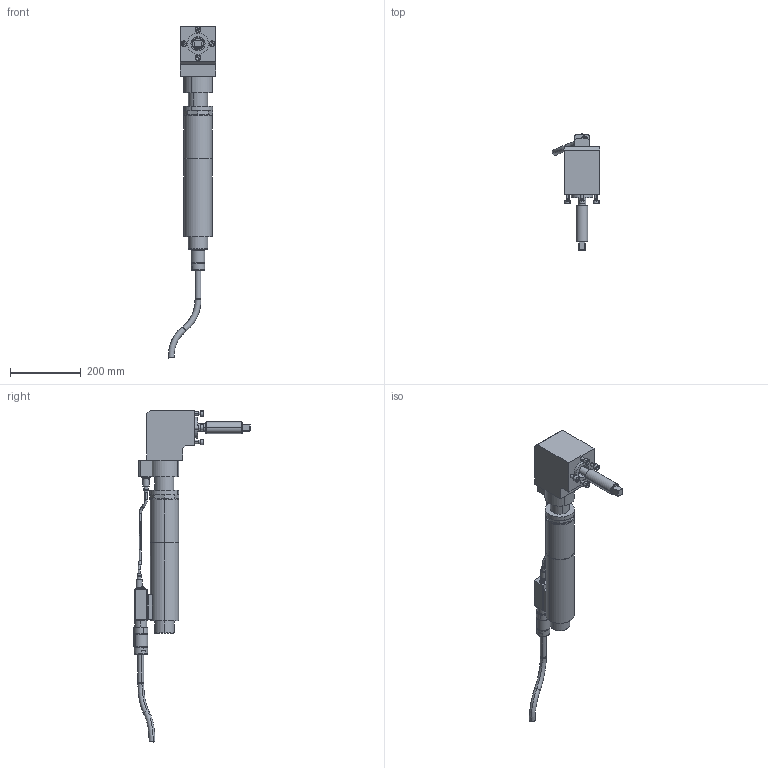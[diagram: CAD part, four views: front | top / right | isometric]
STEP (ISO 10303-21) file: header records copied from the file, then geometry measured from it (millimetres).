
FILE_DESCRIPTION(('CATIA V5 STEP'),'2;1');
FILE_NAME('O:\3D-Schrauber\stp\7920508_ECR326_DR300_AW350_AllCATPart.stp','2010-05-05T11:09:56+00:00',('none'),('none'),'CATIA Version 5 Release 19 SP 3 (IN-10)','CATIA V5 STEP AP214','none');
FILE_SCHEMA(('AUTOMOTIVE_DESIGN { 1 0 10303 214 1 1 1 1 }'));
Length unit declared in the file: millimetre
Products named in the file (1): 7920508_ECR326_DR300_AW350_AllCATPart
Bounding box: 133.82 x 328.48 x 936.16 mm (x, y, z)
Volume: 4648550.9 mm3; surface area: 360982.1 mm2
Topology: 18 solids, 18 shells, 435 faces, 957 edges, 598 vertices
Faces by surface type: plane 176, cylinder 151, cone 68, torus 40
Entity records: 11389 total; most frequent: CARTESIAN_POINT 2262, ORIENTED_EDGE 1898, DIRECTION 1573, EDGE_CURVE 949, AXIS2_PLACEMENT_3D 797, VERTEX_POINT 598, EDGE_LOOP 483, CIRCLE 460
